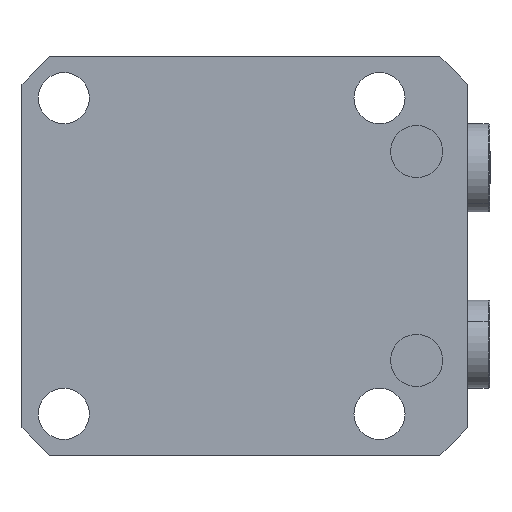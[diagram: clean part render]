
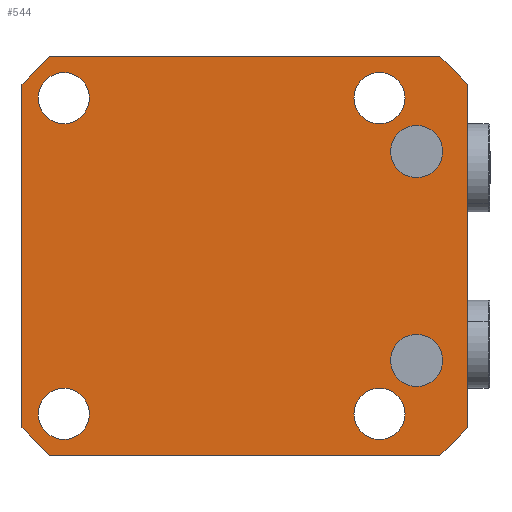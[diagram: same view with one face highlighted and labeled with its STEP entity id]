
A CAD part, front view. The second image highlights one B-rep face of the part: STEP entity #544.
In plain terms, the highlighted planar face has unit normal (0, -1, 0).
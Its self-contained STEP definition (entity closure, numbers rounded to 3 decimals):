
#195=PLANE('',#4188);
#268=FACE_BOUND('',#999,.T.);
#269=FACE_BOUND('',#1000,.T.);
#270=FACE_BOUND('',#1001,.T.);
#271=FACE_BOUND('',#1002,.T.);
#272=FACE_BOUND('',#1003,.T.);
#273=FACE_BOUND('',#1004,.T.);
#274=FACE_BOUND('',#1005,.T.);
#544=ADVANCED_FACE('',(#268,#269,#270,#271,#272,#273,#274),#195,.T.);
#999=EDGE_LOOP('',(#2247,#2248));
#1000=EDGE_LOOP('',(#2249,#2250));
#1001=EDGE_LOOP('',(#2251,#2252));
#1002=EDGE_LOOP('',(#2253,#2254));
#1003=EDGE_LOOP('',(#2255,#2256));
#1004=EDGE_LOOP('',(#2257,#2258));
#1005=EDGE_LOOP('',(#2259,#2260,#2261,#2262,#2263,#2264,#2265,#2266));
#1293=LINE('',#6411,#1563);
#1300=LINE('',#6434,#1570);
#1307=LINE('',#6448,#1577);
#1315=LINE('',#6474,#1585);
#1318=LINE('',#6487,#1588);
#1319=LINE('',#6488,#1589);
#1320=LINE('',#6489,#1590);
#1321=LINE('',#6490,#1591);
#1563=VECTOR('',#5051,1.);
#1570=VECTOR('',#5084,1.);
#1577=VECTOR('',#5093,1.);
#1585=VECTOR('',#5103,1.);
#1588=VECTOR('',#5112,1.);
#1589=VECTOR('',#5113,1.);
#1590=VECTOR('',#5114,1.);
#1591=VECTOR('',#5115,1.);
#2247=ORIENTED_EDGE('',*,*,#3473,.F.);
#2248=ORIENTED_EDGE('',*,*,#3322,.F.);
#2249=ORIENTED_EDGE('',*,*,#3474,.F.);
#2250=ORIENTED_EDGE('',*,*,#3326,.F.);
#2251=ORIENTED_EDGE('',*,*,#3450,.T.);
#2252=ORIENTED_EDGE('',*,*,#3368,.T.);
#2253=ORIENTED_EDGE('',*,*,#3446,.T.);
#2254=ORIENTED_EDGE('',*,*,#3376,.T.);
#2255=ORIENTED_EDGE('',*,*,#3444,.T.);
#2256=ORIENTED_EDGE('',*,*,#3380,.T.);
#2257=ORIENTED_EDGE('',*,*,#3448,.T.);
#2258=ORIENTED_EDGE('',*,*,#3372,.T.);
#2259=ORIENTED_EDGE('',*,*,#3437,.F.);
#2260=ORIENTED_EDGE('',*,*,#3475,.T.);
#2261=ORIENTED_EDGE('',*,*,#3452,.F.);
#2262=ORIENTED_EDGE('',*,*,#3476,.T.);
#2263=ORIENTED_EDGE('',*,*,#3459,.F.);
#2264=ORIENTED_EDGE('',*,*,#3477,.T.);
#2265=ORIENTED_EDGE('',*,*,#3469,.F.);
#2266=ORIENTED_EDGE('',*,*,#3478,.T.);
#2897=VERTEX_POINT('',#6145);
#2898=VERTEX_POINT('',#6147);
#2901=VERTEX_POINT('',#6154);
#2902=VERTEX_POINT('',#6156);
#2939=VERTEX_POINT('',#6266);
#2940=VERTEX_POINT('',#6267);
#2943=VERTEX_POINT('',#6275);
#2944=VERTEX_POINT('',#6276);
#2947=VERTEX_POINT('',#6284);
#2948=VERTEX_POINT('',#6285);
#2951=VERTEX_POINT('',#6293);
#2952=VERTEX_POINT('',#6294);
#2994=VERTEX_POINT('',#6410);
#2995=VERTEX_POINT('',#6412);
#2998=VERTEX_POINT('',#6435);
#2999=VERTEX_POINT('',#6436);
#3004=VERTEX_POINT('',#6449);
#3005=VERTEX_POINT('',#6450);
#3013=VERTEX_POINT('',#6475);
#3014=VERTEX_POINT('',#6476);
#3322=EDGE_CURVE('',#2897,#2898,#3782,.T.);
#3326=EDGE_CURVE('',#2901,#2902,#3784,.T.);
#3368=EDGE_CURVE('',#2939,#2940,#3799,.T.);
#3372=EDGE_CURVE('',#2943,#2944,#3801,.T.);
#3376=EDGE_CURVE('',#2947,#2948,#3803,.T.);
#3380=EDGE_CURVE('',#2951,#2952,#3805,.T.);
#3437=EDGE_CURVE('',#2994,#2995,#1293,.T.);
#3444=EDGE_CURVE('',#2952,#2951,#3809,.T.);
#3446=EDGE_CURVE('',#2948,#2947,#3811,.T.);
#3448=EDGE_CURVE('',#2944,#2943,#3813,.T.);
#3450=EDGE_CURVE('',#2940,#2939,#3815,.T.);
#3452=EDGE_CURVE('',#2998,#2999,#1300,.T.);
#3459=EDGE_CURVE('',#3004,#3005,#1307,.T.);
#3469=EDGE_CURVE('',#3013,#3014,#1315,.T.);
#3473=EDGE_CURVE('',#2898,#2897,#3817,.T.);
#3474=EDGE_CURVE('',#2902,#2901,#3818,.T.);
#3475=EDGE_CURVE('',#2994,#2999,#1318,.T.);
#3476=EDGE_CURVE('',#2998,#3005,#1319,.T.);
#3477=EDGE_CURVE('',#3004,#3014,#1320,.T.);
#3478=EDGE_CURVE('',#3013,#2995,#1321,.T.);
#3782=CIRCLE('',#4116,5.6);
#3784=CIRCLE('',#4119,5.6);
#3799=CIRCLE('',#4145,5.5);
#3801=CIRCLE('',#4148,5.5);
#3803=CIRCLE('',#4151,5.5);
#3805=CIRCLE('',#4154,5.5);
#3809=CIRCLE('',#4171,5.5);
#3811=CIRCLE('',#4174,5.5);
#3813=CIRCLE('',#4177,5.5);
#3815=CIRCLE('',#4180,5.5);
#3817=CIRCLE('',#4186,5.6);
#3818=CIRCLE('',#4187,5.6);
#4116=AXIS2_PLACEMENT_3D('',#6146,#4863,#4864);
#4119=AXIS2_PLACEMENT_3D('',#6155,#4871,#4872);
#4145=AXIS2_PLACEMENT_3D('',#6265,#4944,#4945);
#4148=AXIS2_PLACEMENT_3D('',#6274,#4952,#4953);
#4151=AXIS2_PLACEMENT_3D('',#6283,#4960,#4961);
#4154=AXIS2_PLACEMENT_3D('',#6292,#4968,#4969);
#4171=AXIS2_PLACEMENT_3D('',#6422,#5060,#5061);
#4174=AXIS2_PLACEMENT_3D('',#6425,#5066,#5067);
#4177=AXIS2_PLACEMENT_3D('',#6428,#5072,#5073);
#4180=AXIS2_PLACEMENT_3D('',#6431,#5078,#5079);
#4186=AXIS2_PLACEMENT_3D('',#6485,#5108,#5109);
#4187=AXIS2_PLACEMENT_3D('',#6486,#5110,#5111);
#4188=AXIS2_PLACEMENT_3D('',#6491,#5116,#5117);
#4863=DIRECTION('',(0.,-1.,0.));
#4864=DIRECTION('',(0.,0.,-1.));
#4871=DIRECTION('',(0.,-1.,0.));
#4872=DIRECTION('',(0.,0.,-1.));
#4944=DIRECTION('',(0.,1.,0.));
#4945=DIRECTION('',(0.,0.,-1.));
#4952=DIRECTION('',(0.,1.,0.));
#4953=DIRECTION('',(0.,0.,-1.));
#4960=DIRECTION('',(0.,1.,0.));
#4961=DIRECTION('',(0.,0.,-1.));
#4968=DIRECTION('',(0.,1.,0.));
#4969=DIRECTION('',(0.,0.,-1.));
#5051=DIRECTION('',(-1.,0.,0.));
#5060=DIRECTION('',(0.,1.,0.));
#5061=DIRECTION('',(0.,0.,-1.));
#5066=DIRECTION('',(0.,1.,0.));
#5067=DIRECTION('',(0.,0.,-1.));
#5072=DIRECTION('',(0.,1.,0.));
#5073=DIRECTION('',(0.,0.,-1.));
#5078=DIRECTION('',(0.,1.,0.));
#5079=DIRECTION('',(0.,0.,-1.));
#5084=DIRECTION('',(0.,0.,-1.));
#5093=DIRECTION('',(1.,0.,0.));
#5103=DIRECTION('',(0.,0.,1.));
#5108=DIRECTION('',(0.,-1.,0.));
#5109=DIRECTION('',(0.,0.,-1.));
#5110=DIRECTION('',(0.,-1.,0.));
#5111=DIRECTION('',(0.,0.,-1.));
#5112=DIRECTION('',(0.707,0.,0.707));
#5113=DIRECTION('',(-0.707,0.,0.707));
#5114=DIRECTION('',(-0.707,0.,-0.707));
#5115=DIRECTION('',(0.707,0.,-0.707));
#5116=DIRECTION('',(0.,-1.,0.));
#5117=DIRECTION('',(0.,0.,-1.));
#6145=CARTESIAN_POINT('',(-42.,-95.,-16.9));
#6146=CARTESIAN_POINT('',(-42.,-95.,-22.5));
#6147=CARTESIAN_POINT('',(-42.,-95.,-28.1));
#6154=CARTESIAN_POINT('',(-42.,-95.,28.1));
#6155=CARTESIAN_POINT('',(-42.,-95.,22.5));
#6156=CARTESIAN_POINT('',(-42.,-95.,16.9));
#6265=CARTESIAN_POINT('',(-34.,-95.,-34.));
#6266=CARTESIAN_POINT('',(-34.,-95.,-39.5));
#6267=CARTESIAN_POINT('',(-34.,-95.,-28.5));
#6274=CARTESIAN_POINT('',(34.,-95.,34.));
#6275=CARTESIAN_POINT('',(34.,-95.,28.5));
#6276=CARTESIAN_POINT('',(34.,-95.,39.5));
#6283=CARTESIAN_POINT('',(-34.,-95.,34.));
#6284=CARTESIAN_POINT('',(-34.,-95.,28.5));
#6285=CARTESIAN_POINT('',(-34.,-95.,39.5));
#6292=CARTESIAN_POINT('',(34.,-95.,-34.));
#6293=CARTESIAN_POINT('',(34.,-95.,-39.5));
#6294=CARTESIAN_POINT('',(34.,-95.,-28.5));
#6410=CARTESIAN_POINT('',(37.,-95.,-43.));
#6411=CARTESIAN_POINT('',(43.,-95.,-43.));
#6412=CARTESIAN_POINT('',(-47.,-95.,-43.));
#6422=CARTESIAN_POINT('',(34.,-95.,-34.));
#6425=CARTESIAN_POINT('',(-34.,-95.,34.));
#6428=CARTESIAN_POINT('',(34.,-95.,34.));
#6431=CARTESIAN_POINT('',(-34.,-95.,-34.));
#6434=CARTESIAN_POINT('',(43.,-95.,-43.));
#6435=CARTESIAN_POINT('',(43.,-95.,37.));
#6436=CARTESIAN_POINT('',(43.,-95.,-37.));
#6448=CARTESIAN_POINT('',(43.,-95.,43.));
#6449=CARTESIAN_POINT('',(-47.,-95.,43.));
#6450=CARTESIAN_POINT('',(37.,-95.,43.));
#6474=CARTESIAN_POINT('',(-53.,-95.,43.));
#6475=CARTESIAN_POINT('',(-53.,-95.,-37.));
#6476=CARTESIAN_POINT('',(-53.,-95.,37.));
#6485=CARTESIAN_POINT('',(-42.,-95.,-22.5));
#6486=CARTESIAN_POINT('',(-42.,-95.,22.5));
#6487=CARTESIAN_POINT('',(83.,-95.,3.));
#6488=CARTESIAN_POINT('',(40.,-95.,40.));
#6489=CARTESIAN_POINT('',(-2.,-95.,88.));
#6490=CARTESIAN_POINT('',(-45.,-95.,-45.));
#6491=CARTESIAN_POINT('',(43.,-95.,43.));
